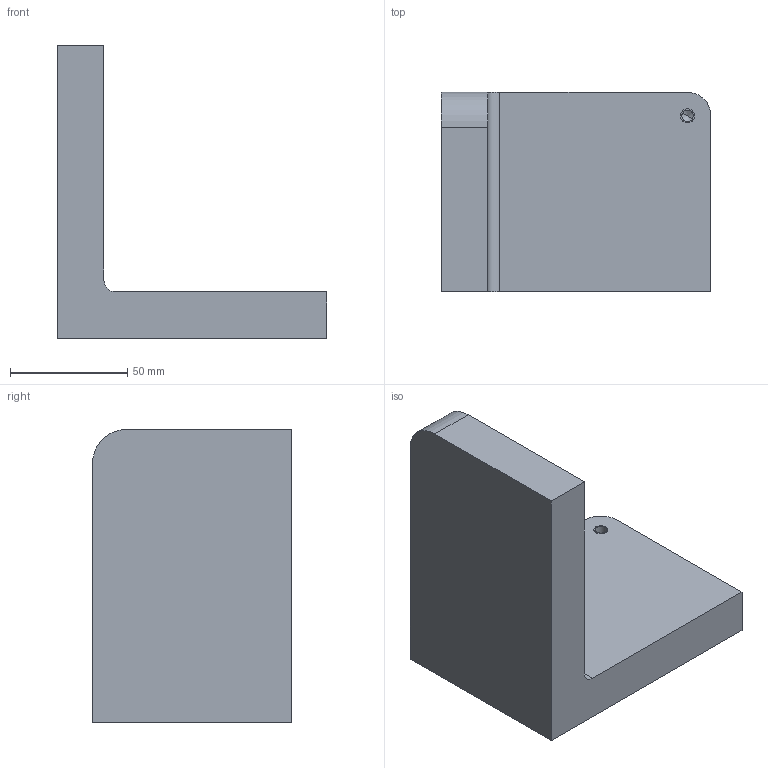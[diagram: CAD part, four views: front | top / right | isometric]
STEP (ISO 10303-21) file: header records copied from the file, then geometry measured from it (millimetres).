
FILE_DESCRIPTION(('CATIA V5 STEP Exchange'),'2;1');
FILE_NAME('C:\_Andres\UNIVERSIDAD\IQS\ASIGNATURAS\DAO\EXF\EXF-16172c\2inicio\Homs_Ruano_Ej01_v15.stp','2017-03-05T15:11:07+00:00',('none'),('none'),'CATIA Version 5-6 Release 2014 SP1 HF18','CATIA V5 STEP AP203','none');
FILE_SCHEMA(('CONFIG_CONTROL_DESIGN'));
Length unit declared in the file: millimetre
Products named in the file (1): Homs_Ruano_Ej01_v15
Bounding box: 115 x 85 x 125 mm (x, y, z)
Volume: 372748.3 mm3; surface area: 49550.5 mm2
Topology: 1 solids, 2 shells, 17 faces, 43 edges, 27 vertices
Faces by surface type: plane 8, cylinder 7, cone 2
Entity records: 513 total; most frequent: CARTESIAN_POINT 83, ORIENTED_EDGE 78, DIRECTION 69, EDGE_CURVE 41, AXIS2_PLACEMENT_3D 29, VECTOR 27, LINE 27, VERTEX_POINT 27
